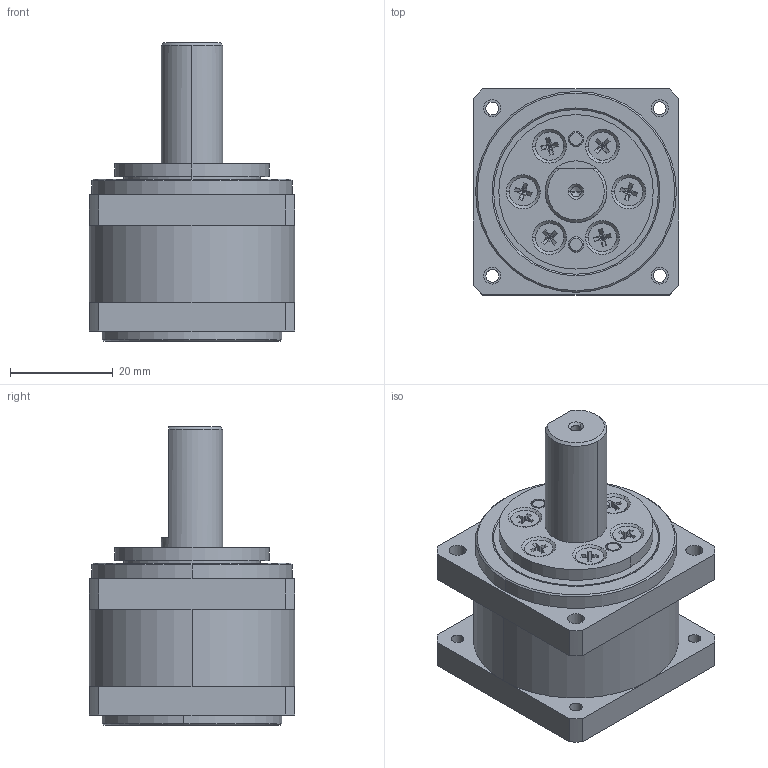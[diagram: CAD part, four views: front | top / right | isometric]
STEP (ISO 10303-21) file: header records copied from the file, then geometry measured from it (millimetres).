
FILE_DESCRIPTION (( 'STEP AP214' ), '1' );
FILE_NAME ('CSF-11-xxx-1U-C.STEP', '2022-05-09T12:19:42', ( 'PC' ), ( 'Microsoft' ), 'SwSTEP 2.0', 'SolidWorks 2016', '' );
FILE_SCHEMA (( 'AUTOMOTIVE_DESIGN' ));
Length unit declared in the file: millimetre
Products named in the file (21): 外径27x1.0  O型圈_預設; M1.6-蹟隊_蕼偞; CSF-11-蝠脫粣創黑芛; CSF-11-交叉轴承内圈; CSF-11-交叉轴承外圈; CSF-11-1U-褲极_蕼偞; CSF-11-02-1U_蕼偞; CSF-11-01-1U_蕼偞; DSF-11-1U-D-疏楷汜ん_蕼偞; 柔性轴承27.262X20.73X4.8X4.6_預設; CSF-11-xxx-1U-C; DSF-11-04-1U-D_蕼偞; 十字槽沉头螺钉  M3x6_預設; 种隊 3x6_蕼偞; CSF-11-07-1U_蕼偞; 十字槽沉头螺钉  M1.6×4_預設; 内六角螺钉  M2.5×8_預設; CSF-11-05-1U_蕼偞; 种隊 2x8_蕼偞; CSF-11-03-1U_蕼偞; CSF-11蝠脫粣創_蕼偞
Assembly tree (38 placements, depth 3):
  CSF-11-xxx-1U-C
    CSF-11-1U-褲极_蕼偞
      CSF-11-01-1U_蕼偞
      CSF-11-02-1U_蕼偞
    CSF-11蝠脫粣創_蕼偞
      CSF-11-交叉轴承外圈
      CSF-11-交叉轴承内圈
      CSF-11-蝠脫粣創黑芛
      M1.6-蹟隊_蕼偞
      外径27x1.0  O型圈_預設
    CSF-11-03-1U_蕼偞
    种隊 2x8_蕼偞  x3
    CSF-11-05-1U_蕼偞
    内六角螺钉  M2.5×8_預設  x6
    十字槽沉头螺钉  M1.6×4_預設  x6
    CSF-11-07-1U_蕼偞
    种隊 3x6_蕼偞  x2
    十字槽沉头螺钉  M3x6_預設  x6
    DSF-11-1U-D-疏楷汜ん_蕼偞
      DSF-11-04-1U-D_蕼偞
      柔性轴承27.262X20.73X4.8X4.6_預設
Bounding box: 40 x 40 x 58 mm (x, y, z)
Volume: 38712.6 mm3; surface area: 31814.7 mm2
Topology: 35 solids, 35 shells, 1184 faces, 2542 edges, 1438 vertices
Faces by surface type: plane 560, cylinder 313, cone 221, bspline 50, torus 40
Entity records: 18229 total; most frequent: CARTESIAN_POINT 3232, DIRECTION 3145, ORIENTED_EDGE 2600, EDGE_CURVE 1300, AXIS2_PLACEMENT_3D 1271, VERTEX_POINT 784, EDGE_LOOP 706, CIRCLE 657
